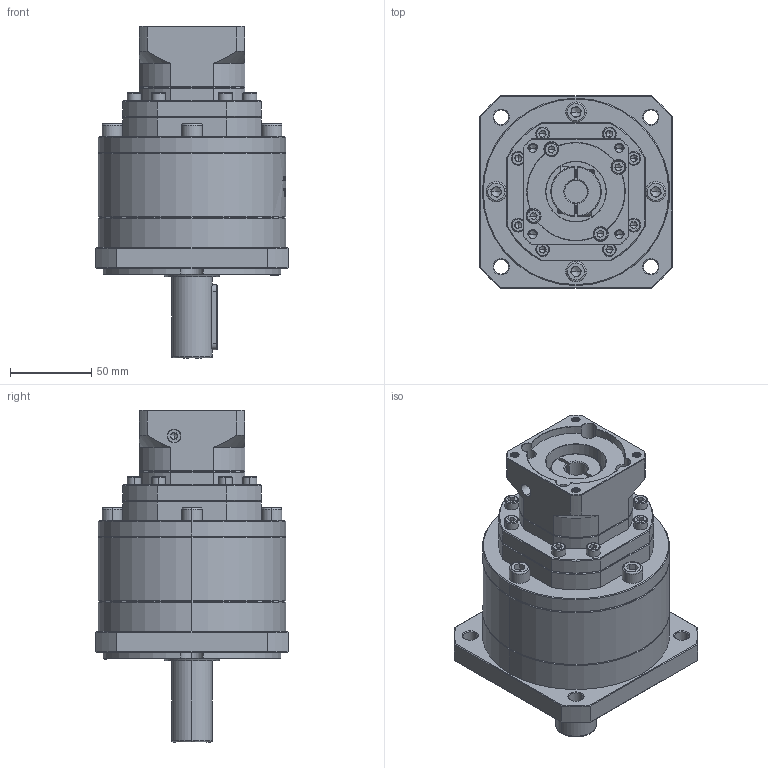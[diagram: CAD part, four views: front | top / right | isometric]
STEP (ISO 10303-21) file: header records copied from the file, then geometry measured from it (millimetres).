
FILE_DESCRIPTION (( 'STEP AP214' ), '1' );
FILE_NAME ('ZF120A-D25-L3-14-60-75-M6.step', '2023-03-07T15:54:55', ( '' ), ( 'Microsoft' ), 'SwSTEP 2.0', 'SolidWorks 2016', '' );
FILE_SCHEMA (( 'AUTOMOTIVE_DESIGN' ));
Length unit declared in the file: millimetre
Products named in the file (1): ZF120A-D25-L3-14-60-75-M6
Bounding box: 118 x 118 x 204 mm (x, y, z)
Volume: 1205093.5 mm3; surface area: 116170 mm2
Topology: 7 solids, 7 shells, 2087 faces, 5494 edges, 3506 vertices
Faces by surface type: plane 1002, cylinder 422, bspline 337, cone 304, torus 22
Entity records: 109591 total; most frequent: CARTESIAN_POINT 38810, ORIENTED_EDGE 10880, DIRECTION 8643, EDGE_CURVE 5440, VERTEX_POINT 3506, LINE 2997, VECTOR 2997, AXIS2_PLACEMENT_3D 2823
